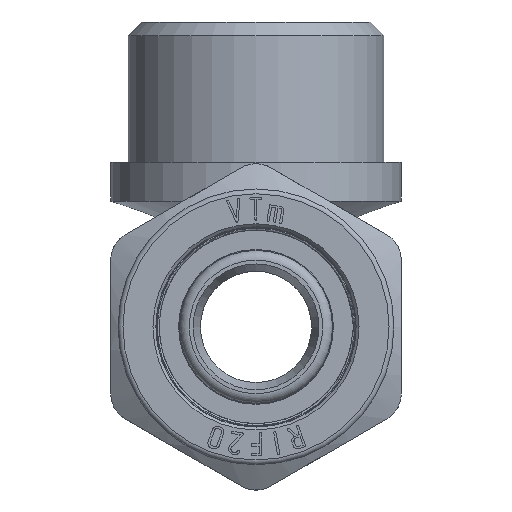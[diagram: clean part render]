
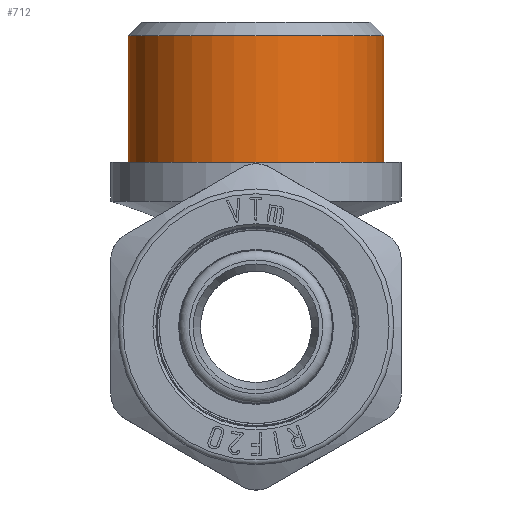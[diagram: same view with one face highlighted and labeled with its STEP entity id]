
A CAD part, front view. The second image highlights one B-rep face of the part: STEP entity #712.
In plain terms, the highlighted cylindrical face has radius 13.22 mm (diameter 26.441 mm), a full revolution.
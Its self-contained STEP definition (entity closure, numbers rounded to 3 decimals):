
#712=ADVANCED_FACE('',(#5488,#5490),#5492,.T.);
#5488=FACE_OUTER_BOUND('',#5489,.T.);
#5489=EDGE_LOOP('',(#10583));
#5490=FACE_OUTER_BOUND('',#5491,.T.);
#5491=EDGE_LOOP('',(#10584));
#5492=CYLINDRICAL_SURFACE('',#5493,13.221);
#5493=AXIS2_PLACEMENT_3D('',#5494,#5495,#5496);
#5494=CARTESIAN_POINT('',(0.,0.,17.));
#5495=DIRECTION('',(0.,0.,1.));
#5496=DIRECTION('',(-1.,0.,0.));
#10583=ORIENTED_EDGE('',*,*,#12927,.F.);
#10584=ORIENTED_EDGE('',*,*,#12641,.F.);
#12641=EDGE_CURVE('',#15727,#15727,#15728,.F.);
#12927=EDGE_CURVE('',#16177,#16177,#16178,.T.);
#15727=VERTEX_POINT('',#25983);
#15728=CIRCLE('',#25984,13.221);
#16177=VERTEX_POINT('',#27011);
#16178=CIRCLE('',#27012,13.221);
#25983=CARTESIAN_POINT('',(-13.221,0.,17.));
#25984=AXIS2_PLACEMENT_3D('',#25985,#25986,#25987);
#25985=CARTESIAN_POINT('',(0.,0.,17.));
#25986=DIRECTION('',(0.,0.,1.));
#25987=DIRECTION('',(-1.,0.,0.));
#27011=CARTESIAN_POINT('',(-13.221,0.,30.1));
#27012=AXIS2_PLACEMENT_3D('',#27013,#27014,#27015);
#27013=CARTESIAN_POINT('',(0.,0.,30.1));
#27014=DIRECTION('',(0.,0.,1.));
#27015=DIRECTION('',(-1.,0.,0.));
